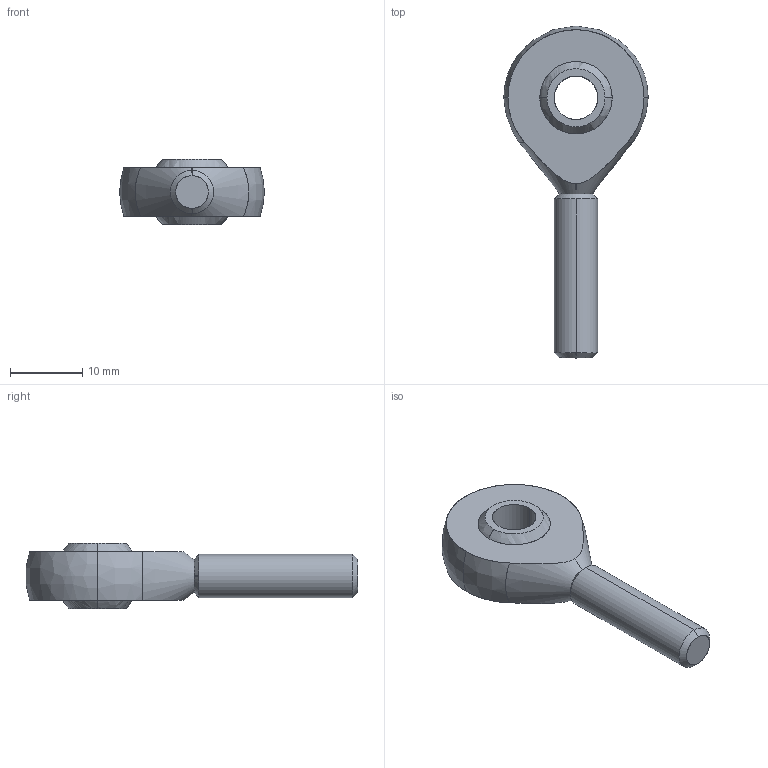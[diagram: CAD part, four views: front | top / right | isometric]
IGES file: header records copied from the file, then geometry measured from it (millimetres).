
Start section: SolidWorks IGES file using analytic representation for surfaces
Global section: file name: C:\Users\Honza\Desktop\Matis\TSM6.IGS; native system: SolidWorks 2010; preprocessor: SolidWorks 2010; author: Honza; date: 130918.145121; units: millimetre
Bounding box: 20 x 45.93 x 9 mm (x, y, z)
Surface area: 2141.8 mm2 (no closed solid volume)
Topology: 0 solids, 0 shells, 22 faces, 478 edges, 474 vertices
Faces by surface type: bspline 12, revolution 10
